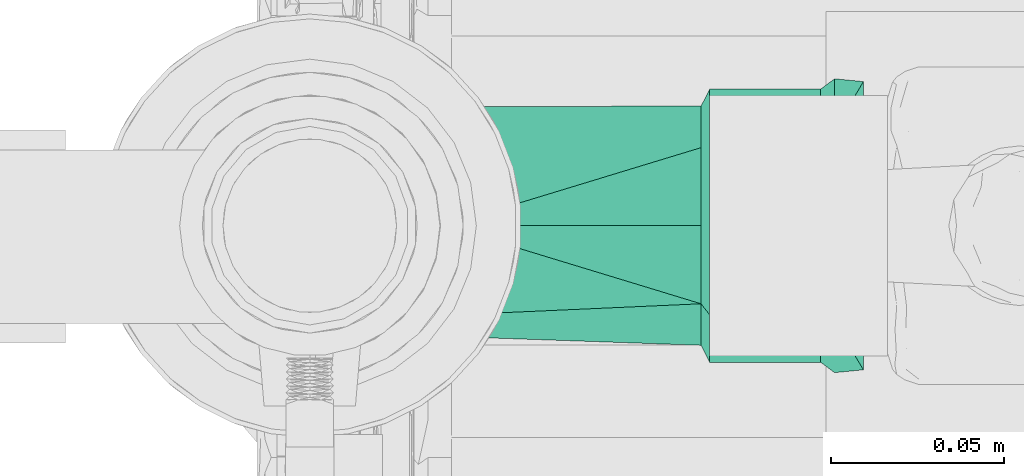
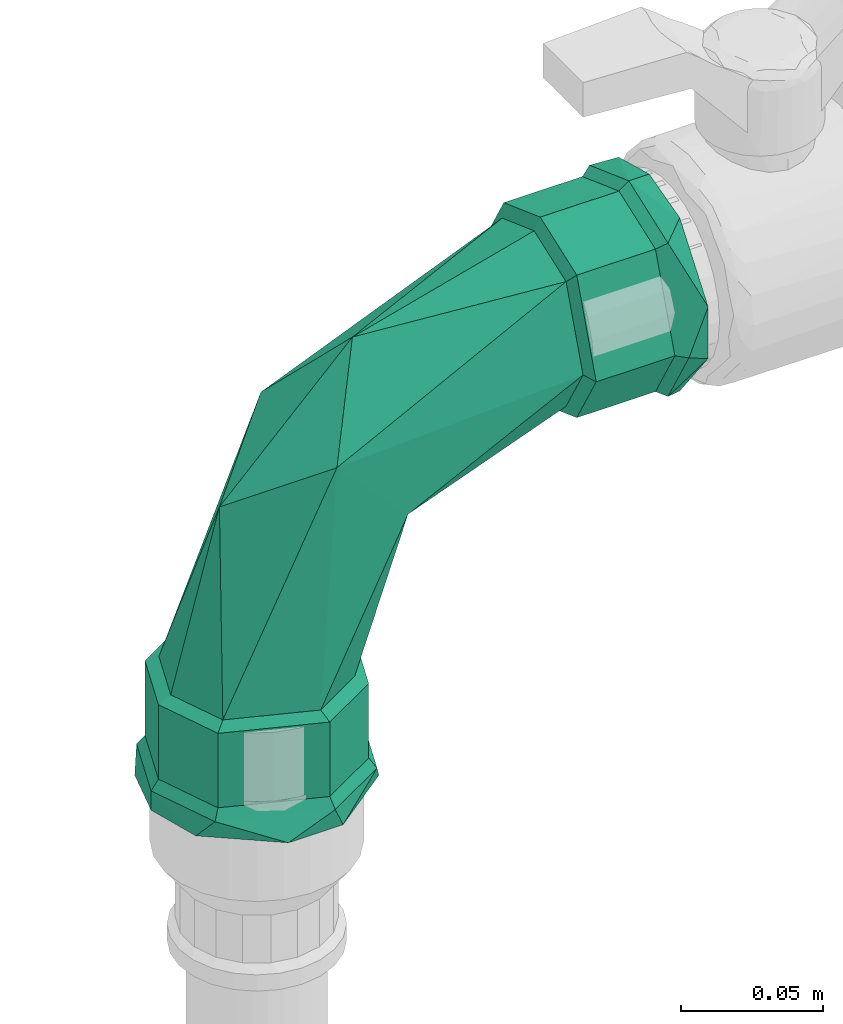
# One storey, part 70 of 166: 1 flow fitting.
"""IFC2X3 building model written with IfcOpenShell, lengths in metres."""

from ifc_helpers import new_model, entity, si_unit, converted_unit, direction, frame, origin, place, context, subcontext, project, spatial, faceted_brep, source, transform, mapped, material, type_object, type_shapes, element, save


model = new_model("IFC2X3")

# Units and contexts
model_context = context("Model", 3, precision=1e-05, world=origin(), true_north=direction((6.123233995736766e-17, 1.0)))
body_context = subcontext(model_context, "Body", "Model", "MODEL_VIEW")
ifc_project = project(units=[si_unit("LENGTHUNIT", "METRE"), converted_unit("PLANEANGLEUNIT", "DEGREE", entity("IfcPlaneAngleMeasure", 0.017453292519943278), si_unit("PLANEANGLEUNIT", "RADIAN"), dimensions=[0, 0, 0, 0, 0, 0, 0]), si_unit("AREAUNIT", "SQUARE_METRE")], contexts=[model_context])

# Site, building, storey
site_placement = place(None, origin())
site = spatial("IfcSite", under=ifc_project, at=site_placement, Name="Default", CompositionType="ELEMENT")
building_placement = place(site_placement, origin())
building = spatial("IfcBuilding", under=site, at=building_placement, Name="CASA DE ACOLHIDA PARA IDOSOS", CompositionType="ELEMENT")
storey_placement = place(building_placement, frame((0.0, 0.0, -1.7499999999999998)))
storey = spatial("IfcBuildingStorey", under=building, at=storey_placement, Name="IMPLANTAÇÃO DRENAGEM", CompositionType="ELEMENT", Elevation=-1.7499999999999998)

# Flow fitting
ifc_material = material(Name="PVC Marrom")
pipe_fitting_type = type_object("IfcPipeFittingType", Name="AF_Soldavel_Curva 45_90:Standard", PredefinedType="NOTDEFINED", material=ifc_material)
shared_shape = source(origin(), body_context, "Body", "Brep", [
    faceted_brep([(-0.1595599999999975, -0.01112921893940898, -0.041534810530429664), (-0.1595599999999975, -0.009705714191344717, -0.036222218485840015), (-0.1595599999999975, 0.00970571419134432, -0.03622221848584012), (-0.1595599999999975, -0.03723909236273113, -0.02149999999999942), (-0.1595599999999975, 0.011129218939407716, -0.041534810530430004), (-0.1595599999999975, -0.03247595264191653, -0.01874999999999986), (-0.1595599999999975, -0.037500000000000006, 0.0), (-0.1595599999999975, -0.043000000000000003, 0.0), (-0.1595599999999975, -0.032475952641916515, 0.018749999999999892), (-0.1595599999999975, -0.03723909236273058, 0.021499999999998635), (-0.1595599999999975, -0.009705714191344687, 0.03622221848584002), (-0.1595599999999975, -0.011129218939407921, 0.04153481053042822), (-0.1595599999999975, 0.00970571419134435, 0.03622221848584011), (-0.1595599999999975, 0.011129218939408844, 0.041534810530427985), (-0.1595599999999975, 0.03247595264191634, 0.018750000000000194), (-0.1595599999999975, 0.03723909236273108, 0.021499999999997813), (-0.1595599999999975, 0.043000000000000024, 0.0), (-0.1595599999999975, 0.037500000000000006, 0.0), (-0.1595599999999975, 0.03723909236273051, -0.021500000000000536), (-0.1595599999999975, 0.03247595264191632, -0.01875000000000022), (-0.1512599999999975, 0.043000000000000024, 0.0), (-0.1512599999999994, 0.03293946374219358, 0.027640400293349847), (-0.15126000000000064, 0.007465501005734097, 0.04234697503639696), (-0.1512599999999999, -0.032941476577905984, 0.027638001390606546), (-0.1512599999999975, -0.043000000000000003, 0.0), (-0.1512599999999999, -0.012737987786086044, 0.03499248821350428), (-0.15125999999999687, -0.03294147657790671, -0.027638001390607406), (-0.15125999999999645, -0.007468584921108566, -0.04234643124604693), (-0.1512599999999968, 0.03293946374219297, -0.027640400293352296), (-0.15125999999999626, 0.012735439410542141, -0.03499341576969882), (-0.14726000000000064, 0.006943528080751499, 0.03939273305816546), (-0.14725999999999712, -0.04, 0.0), (-0.14725999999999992, -0.0306445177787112, 0.02570823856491), (-0.14726000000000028, -0.01185049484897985, 0.03255048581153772), (-0.14725999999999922, 0.03064099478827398, 0.025712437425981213), (-0.14725999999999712, 0.04000000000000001, 0.0), (-0.14725999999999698, 0.030640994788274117, -0.025712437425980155), (-0.14725999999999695, 0.011846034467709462, -0.03255210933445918), (-0.14725999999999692, -0.030644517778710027, -0.02570823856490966), (-0.1472599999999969, -0.006948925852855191, -0.039391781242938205), (-0.11525999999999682, 0.04000000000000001, 0.0), (-0.1152599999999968, 0.03064034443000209, 0.025713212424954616), (-0.11525999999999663, 0.006941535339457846, 0.039393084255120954), (-0.1152599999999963, -0.030646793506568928, 0.025705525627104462), (-0.11525999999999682, -0.039999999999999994, 0.0), (-0.11525999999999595, -0.03064679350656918, -0.025705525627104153), (-0.11525999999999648, -0.006951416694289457, -0.03939134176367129), (-0.11525999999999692, 0.030640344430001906, -0.02571321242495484), (-0.11275999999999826, 0.02681594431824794, -0.022492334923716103), (-0.11275999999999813, -0.00607384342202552, -0.034468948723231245), (-0.1127599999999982, 0.03500000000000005, 0.0), (-0.1127599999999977, -0.026810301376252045, -0.02249906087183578), (-0.11275999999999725, -0.03500000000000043, 0.0), (-0.11276000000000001, -0.026810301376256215, 0.022499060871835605), (-0.11275999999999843, 0.0060824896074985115, 0.034467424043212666), (-0.11275999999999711, 0.026815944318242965, 0.022492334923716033), (-0.038879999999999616, -0.015203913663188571, 0.0), (-0.017106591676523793, 0.017106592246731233, 0.026797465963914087), (-0.006082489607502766, 0.11275999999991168, 0.0344674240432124), (-0.042993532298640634, 0.04299353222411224, 0.03203626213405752), (-0.05777537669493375, 0.05777537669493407, 0.0), (-0.0268159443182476, 0.1127599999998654, 0.02249233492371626), (0.015203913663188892, 0.03887999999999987, 0.0), (0.035000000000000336, 0.11275999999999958, 0.0), (0.026810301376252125, 0.11275999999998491, 0.022499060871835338), (-0.034999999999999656, 0.1127599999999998, 0.0), (-0.037770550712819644, 0.03777054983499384, -0.03435099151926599), (-0.05270496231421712, 0.052704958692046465, -0.021225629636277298), (-0.0268159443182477, 0.11275999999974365, -0.022492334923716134), (-0.01710659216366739, 0.01710659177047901, -0.02679746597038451), (0.0060738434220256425, 0.11275999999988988, -0.03446894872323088), (0.02681030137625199, 0.11275999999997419, -0.022499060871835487), (0.03064034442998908, 0.115259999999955, -0.025713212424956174), (0.03999999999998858, 0.11525999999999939, 0.0), (0.006941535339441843, 0.11525999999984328, -0.03939308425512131), (-0.04000000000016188, 0.11525999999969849, 0.0), (-0.030646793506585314, 0.11525999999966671, -0.02570552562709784), (-0.03064679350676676, 0.1152600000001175, 0.02570552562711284), (-0.006951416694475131, 0.11526000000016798, 0.039391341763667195), (0.030640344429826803, 0.1152600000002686, 0.025713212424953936), (0.03999999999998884, 0.14725999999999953, 0.0), (0.030640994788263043, 0.14726000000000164, 0.02571243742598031), (0.011846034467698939, 0.14726000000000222, 0.03255210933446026), (-0.006948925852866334, 0.14726000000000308, 0.039391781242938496), (-0.03064451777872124, 0.1472600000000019, 0.02570823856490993), (-0.04000000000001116, 0.14725999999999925, 0.0), (-0.030644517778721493, 0.14726000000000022, -0.025708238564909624), (-0.011850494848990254, 0.14726000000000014, -0.03255048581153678), (0.006943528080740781, 0.14725999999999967, -0.03939273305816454), (0.030640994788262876, 0.14725999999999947, -0.025712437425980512), (-0.03293946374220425, 0.15126000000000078, 0.02764040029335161), (-0.043000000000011, 0.1512599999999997, 0.0), (-0.007465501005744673, 0.15126000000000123, 0.042346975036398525), (0.032941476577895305, 0.15126000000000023, 0.027638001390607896), (0.012737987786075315, 0.15126000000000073, 0.03499248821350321), (0.04299999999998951, 0.1512599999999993, 0.0), (0.03294147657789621, 0.15126000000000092, -0.027638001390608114), (0.0074685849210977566, 0.1512600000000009, -0.042346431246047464), (-0.03293946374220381, 0.15126000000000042, -0.0276404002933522), (-0.012735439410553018, 0.15126000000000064, -0.03499341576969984), (-0.011129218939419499, 0.1595599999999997, -0.04153481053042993), (-0.009705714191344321, 0.1595599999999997, -0.03622221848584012), (0.009705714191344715, 0.1595599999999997, -0.036222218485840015), (-0.03723909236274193, 0.1595599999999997, -0.02149999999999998), (0.011129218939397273, 0.1595599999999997, -0.04153481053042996), (-0.03247595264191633, 0.1595599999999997, -0.01875000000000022), (-0.037500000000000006, 0.1595599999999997, 0.0), (-0.04300000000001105, 0.1595599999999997, 0.0), (-0.03247595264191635, 0.1595599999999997, 0.018750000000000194), (-0.03723909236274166, 0.1595599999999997, 0.02150000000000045), (-0.009705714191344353, 0.1595599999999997, 0.03622221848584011), (-0.011129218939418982, 0.1595599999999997, 0.041534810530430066), (0.009705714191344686, 0.1595599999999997, 0.03622221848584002), (0.01112921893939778, 0.1595599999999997, 0.04153481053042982), (0.03247595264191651, 0.1595599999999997, 0.018749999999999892), (0.03723909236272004, 0.1595599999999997, 0.02149999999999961), (0.04299999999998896, 0.1595599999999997, 0.0), (0.0375, 0.1595599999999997, 0.0), (0.03723909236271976, 0.1595599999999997, -0.0215000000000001), (0.03247595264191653, 0.1595599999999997, -0.01874999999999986), (-0.11525999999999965, 0.009705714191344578, -0.036222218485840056), (-0.11525999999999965, -0.009705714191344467, -0.036222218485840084), (-0.11525999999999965, -0.032475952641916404, -0.018750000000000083), (-0.11525999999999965, -0.037500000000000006, 0.0), (-0.11525999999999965, -0.03247595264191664, 0.018749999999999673), (-0.11525999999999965, -0.009705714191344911, 0.03622221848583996), (-0.11525999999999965, 0.009705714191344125, 0.036222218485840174), (-0.11525999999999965, 0.032475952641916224, 0.01875000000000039), (-0.11525999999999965, 0.037500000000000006, 0.0), (-0.11525999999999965, 0.03247595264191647, -0.018749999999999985), (0.009705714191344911, 0.11526000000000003, 0.03622221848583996), (-0.009705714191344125, 0.11526000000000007, 0.036222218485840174), (-0.009705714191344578, 0.11526000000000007, -0.036222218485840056), (0.009705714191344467, 0.11526000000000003, -0.036222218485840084), (-0.03247595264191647, 0.1152600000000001, -0.018749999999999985), (-0.037500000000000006, 0.11526000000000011, 0.0), (-0.032475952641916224, 0.1152600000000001, 0.01875000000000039), (0.03247595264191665, 0.11526, 0.01874999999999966), (0.037500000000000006, 0.11525999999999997, 0.0), (0.032475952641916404, 0.11526, -0.018750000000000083)], [[[0, 1, 2]], [[1, 0, 3]], [[2, 4, 0]], [[3, 5, 1]], [[3, 6, 5]], [[6, 3, 7]], [[8, 6, 7]], [[8, 7, 9]], [[9, 10, 8]], [[9, 11, 10]], [[10, 11, 12]], [[13, 12, 11]], [[13, 14, 12]], [[14, 13, 15]], [[16, 14, 15]], [[17, 14, 16]], [[18, 17, 16]], [[18, 19, 17]], [[19, 18, 4]], [[4, 2, 19]], [[16, 15, 20]], [[15, 21, 20]], [[21, 15, 13]], [[21, 13, 22]], [[23, 11, 9]], [[24, 9, 7]], [[11, 23, 25, 22]], [[23, 9, 24]], [[11, 22, 13]], [[7, 3, 24]], [[3, 26, 24]], [[26, 3, 0]], [[26, 0, 27]], [[28, 4, 18]], [[20, 18, 16]], [[4, 28, 29, 27]], [[28, 18, 20]], [[4, 27, 0]], [[25, 30, 22]], [[31, 32, 24]], [[24, 32, 23]], [[23, 33, 25]], [[34, 35, 21]], [[23, 32, 33]], [[21, 22, 34]], [[20, 21, 35]], [[30, 25, 33]], [[34, 22, 30]], [[35, 36, 28]], [[28, 20, 35]], [[36, 29, 28]], [[36, 37, 29]], [[37, 27, 29]], [[38, 31, 24]], [[38, 26, 39]], [[26, 38, 24]], [[27, 37, 39]], [[39, 26, 27]], [[35, 34, 40]], [[34, 41, 40]], [[41, 34, 30]], [[41, 30, 42]], [[32, 31, 43]], [[32, 43, 42]], [[43, 31, 44]], [[42, 30, 33, 32]], [[31, 38, 45]], [[31, 45, 44]], [[45, 38, 46]], [[38, 39, 46]], [[47, 39, 37, 36]], [[36, 40, 47]], [[40, 36, 35]], [[39, 47, 46]], [[48, 49, 47]], [[50, 48, 40]], [[40, 48, 47]], [[49, 46, 47]], [[51, 52, 45]], [[45, 46, 51]], [[44, 45, 52]], [[51, 46, 49]], [[52, 53, 43]], [[43, 44, 52]], [[42, 43, 53]], [[53, 54, 42]], [[55, 50, 40]], [[55, 41, 54]], [[41, 55, 40]], [[54, 41, 42]], [[52, 56, 53]], [[53, 57, 54]], [[57, 58, 59]], [[59, 55, 54]], [[50, 55, 60]], [[58, 61, 59]], [[57, 56, 62]], [[57, 59, 54]], [[62, 63, 64]], [[57, 53, 56]], [[64, 58, 57]], [[65, 60, 61]], [[60, 55, 59]], [[60, 59, 61]], [[62, 64, 57]], [[66, 67, 68]], [[69, 66, 70]], [[62, 69, 71]], [[52, 51, 56]], [[56, 51, 69]], [[69, 49, 66]], [[50, 60, 67]], [[65, 68, 67]], [[66, 48, 67]], [[49, 48, 66]], [[70, 66, 68]], [[62, 56, 69]], [[70, 71, 69]], [[71, 63, 62]], [[51, 49, 69]], [[60, 65, 67]], [[50, 67, 48]], [[63, 71, 72, 73]], [[74, 72, 71, 70]], [[68, 65, 75, 76]], [[68, 76, 74, 70]], [[65, 61, 77, 75]], [[78, 77, 61, 58]], [[64, 63, 73, 79]], [[64, 79, 78, 58]], [[80, 81, 73]], [[81, 79, 73]], [[79, 81, 82, 83]], [[79, 83, 78]], [[84, 85, 77]], [[84, 77, 78]], [[77, 85, 75]], [[84, 78, 83]], [[85, 86, 76]], [[85, 76, 75]], [[76, 86, 74]], [[74, 86, 87, 88]], [[88, 89, 72]], [[89, 73, 72]], [[73, 89, 80]], [[88, 72, 74]], [[84, 83, 90]], [[85, 84, 91]], [[91, 84, 90]], [[83, 92, 90]], [[81, 80, 93]], [[81, 93, 94]], [[82, 92, 83]], [[95, 93, 80]], [[92, 82, 94]], [[82, 81, 94]], [[80, 89, 96]], [[96, 95, 80]], [[97, 96, 89]], [[98, 99, 87]], [[89, 88, 97]], [[86, 85, 91]], [[98, 87, 86]], [[98, 86, 91]], [[88, 99, 97]], [[99, 88, 87]], [[100, 101, 102]], [[101, 100, 103]], [[102, 104, 100]], [[103, 105, 101]], [[103, 106, 105]], [[106, 103, 107]], [[108, 106, 107]], [[108, 107, 109]], [[109, 110, 108]], [[109, 111, 110]], [[110, 111, 112]], [[113, 112, 111]], [[113, 114, 112]], [[114, 113, 115]], [[116, 114, 115]], [[117, 114, 116]], [[118, 117, 116]], [[118, 119, 117]], [[119, 118, 104]], [[104, 102, 119]], [[116, 115, 95]], [[115, 93, 95]], [[93, 115, 113]], [[113, 92, 94, 93]], [[90, 111, 109]], [[91, 109, 107]], [[111, 90, 92]], [[90, 109, 91]], [[111, 92, 113]], [[107, 103, 91]], [[103, 98, 91]], [[98, 103, 100]], [[100, 97, 99, 98]], [[96, 104, 118]], [[95, 118, 116]], [[104, 96, 97]], [[96, 118, 95]], [[104, 97, 100]], [[120, 121, 122, 123, 124, 125, 126, 127, 128, 129]], [[124, 123, 6, 8]], [[125, 124, 8, 10]], [[10, 12, 126, 125]], [[130, 131, 110, 112]], [[127, 126, 12, 14]], [[128, 127, 14, 17]], [[129, 128, 17, 19]], [[120, 129, 19, 2]], [[2, 1, 121, 120]], [[132, 133, 102, 101]], [[122, 121, 1, 5]], [[123, 122, 5, 6]], [[132, 134, 135, 136, 131, 130, 137, 138, 139, 133]], [[114, 117, 138, 137]], [[112, 114, 137, 130]], [[108, 110, 131, 136]], [[106, 108, 136, 135]], [[105, 106, 135, 134]], [[101, 105, 134, 132]], [[119, 102, 133, 139]], [[117, 119, 139, 138]]]),
])
type_shapes(pipe_fitting_type, [shared_shape])
flow_fitting_placement = place(storey_placement, frame((-60.770762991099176, 7.052060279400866, 1.1999999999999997), z_axis=(0.0, -1.0, 0.0), x_axis=(-1.0, 0.0, 0.0)))
element("IfcFlowFitting", 1, at=flow_fitting_placement, inside=storey, type_object=pipe_fitting_type, material=ifc_material, Name="AF_Soldavel_Curva 45_90:Standard", ObjectType="AF_Soldavel_Curva 45_90:Standard", context=body_context, shape_type="MappedRepresentation", body=[
    mapped(shared_shape, transform((0.0, 0.0, 0.0), scale=1.0)),
])

save(model, "model.ifc")
